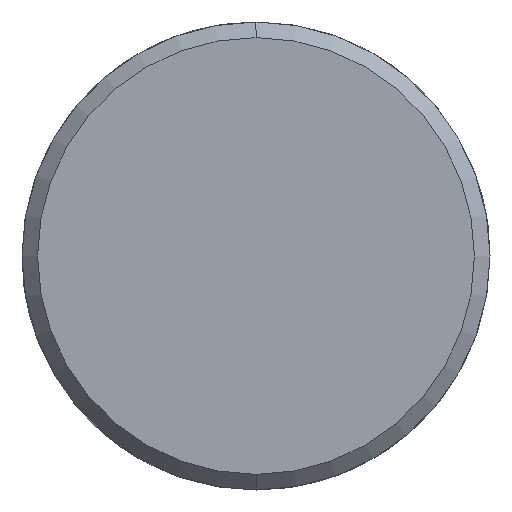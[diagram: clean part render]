
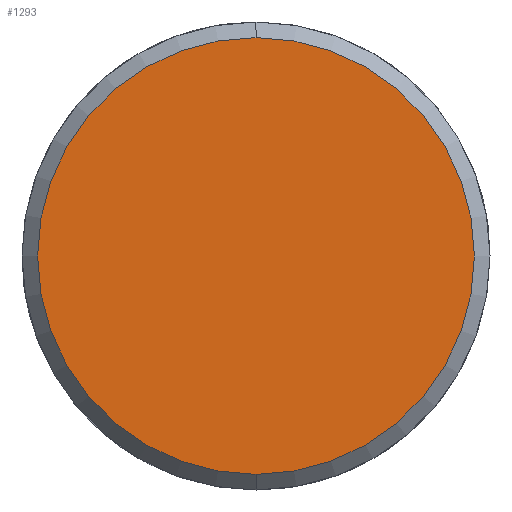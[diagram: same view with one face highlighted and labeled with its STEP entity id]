
A CAD part, left-side view. The second image highlights one B-rep face of the part: STEP entity #1293.
In plain terms, the highlighted planar face has unit normal (-1, 0, 0).
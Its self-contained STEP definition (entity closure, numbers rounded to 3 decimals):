
#1225=CARTESIAN_POINT('Vertex',(-5.,0.,-14.)) ;
#1228=CARTESIAN_POINT('Axis2P3D Location',(-5.,0.,0.)) ;
#1232=CARTESIAN_POINT('Vertex',(-5.,14.,0.)) ;
#1235=CARTESIAN_POINT('Axis2P3D Location',(-5.,0.,0.)) ;
#1239=CARTESIAN_POINT('Vertex',(-5.,0.,14.)) ;
#1261=CARTESIAN_POINT('Axis2P3D Location',(-5.,0.,0.)) ;
#1265=CARTESIAN_POINT('Vertex',(-5.,-14.,0.)) ;
#1268=CARTESIAN_POINT('Axis2P3D Location',(-5.,0.,0.)) ;
#1282=CARTESIAN_POINT('Axis2P3D Location',(-5.,0.,0.)) ;
#1229=DIRECTION('Axis2P3D Direction',(1.,0.,-0.)) ;
#1236=DIRECTION('Axis2P3D Direction',(1.,0.,-0.)) ;
#1262=DIRECTION('Axis2P3D Direction',(1.,0.,-0.)) ;
#1269=DIRECTION('Axis2P3D Direction',(1.,0.,-0.)) ;
#1283=DIRECTION('Axis2P3D Direction',(1.,0.,-0.)) ;
#1284=DIRECTION('Axis2P3D XDirection',(-0.,0.,-1.)) ;
#1230=AXIS2_PLACEMENT_3D('Circle Axis2P3D',#1228,#1229,$) ;
#1237=AXIS2_PLACEMENT_3D('Circle Axis2P3D',#1235,#1236,$) ;
#1263=AXIS2_PLACEMENT_3D('Circle Axis2P3D',#1261,#1262,$) ;
#1270=AXIS2_PLACEMENT_3D('Circle Axis2P3D',#1268,#1269,$) ;
#1285=AXIS2_PLACEMENT_3D('Plane Axis2P3D',#1282,#1283,#1284) ;
#1288=ORIENTED_EDGE('',*,*,#1234,.F.) ;
#1289=ORIENTED_EDGE('',*,*,#1272,.F.) ;
#1290=ORIENTED_EDGE('',*,*,#1267,.F.) ;
#1291=ORIENTED_EDGE('',*,*,#1241,.F.) ;
#1293=ADVANCED_FACE('351-18X66X180',(#1292),#1286,.F.) ;
#1231=CIRCLE('generated circle',#1230,14.) ;
#1238=CIRCLE('generated circle',#1237,14.) ;
#1264=CIRCLE('generated circle',#1263,14.) ;
#1271=CIRCLE('generated circle',#1270,14.) ;
#1234=EDGE_CURVE('',#1226,#1233,#1231,.T.) ;
#1241=EDGE_CURVE('',#1233,#1240,#1238,.T.) ;
#1267=EDGE_CURVE('',#1240,#1266,#1264,.T.) ;
#1272=EDGE_CURVE('',#1266,#1226,#1271,.T.) ;
#1287=EDGE_LOOP('',(#1288,#1289,#1290,#1291)) ;
#1292=FACE_OUTER_BOUND('',#1287,.T.) ;
#1286=PLANE('Plane',#1285) ;
#1226=VERTEX_POINT('',#1225) ;
#1233=VERTEX_POINT('',#1232) ;
#1240=VERTEX_POINT('',#1239) ;
#1266=VERTEX_POINT('',#1265) ;
